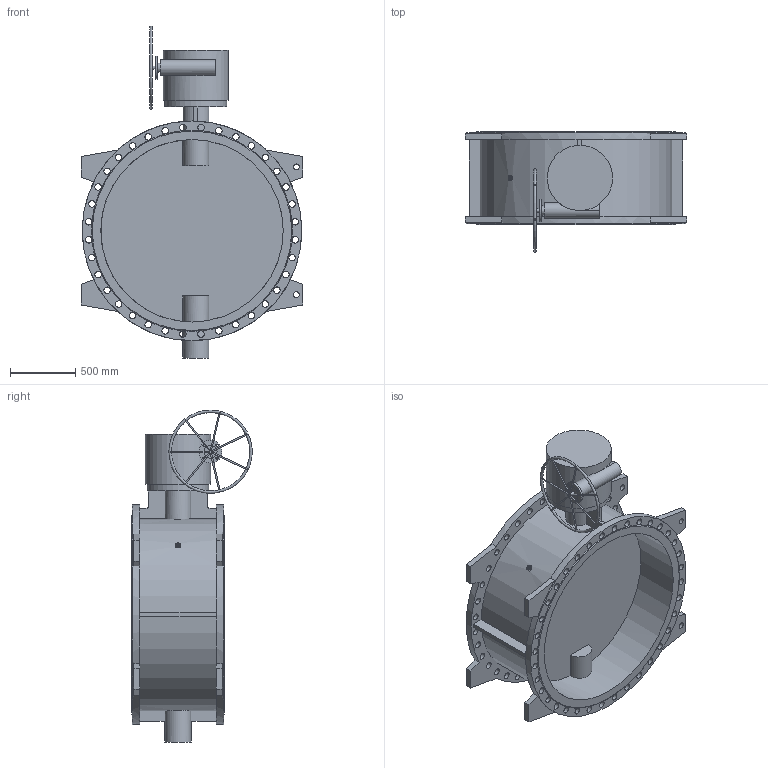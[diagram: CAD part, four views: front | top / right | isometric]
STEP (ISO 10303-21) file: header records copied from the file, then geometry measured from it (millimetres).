
FILE_DESCRIPTION(('STEP AP203'), '1');
FILE_NAME('Çàòâîð 023F.Z DN1400 PN16_ìàõ', '', ('UNSPECIFIED'), ('UNSPECIFIED'), 'ASCON STEP Converter 1.6', 'ASCON Math Kernel', '');
FILE_SCHEMA(('CONFIG_CONTROL_DESIGN'));
Length unit declared in the file: millimetre
Bounding box: 1700 x 925 x 2547 mm (x, y, z)
Volume: 453083044.2 mm3; surface area: 14587809.6 mm2
Topology: 2 solids, 2 shells, 245 faces, 755 edges, 477 vertices
Faces by surface type: cylinder 133, plane 109, cone 2, torus 1
Full cylindrical faces by diameter (mm): 10 x7, 18 x4, 24 x1, 33 x8, 39 x8, 45 x4, 50 x72, 70 x1, 100 x1, 120 x1, 175 x1, 200 x1, 475 x1, 500 x1, 1400 x2, 1685 x2
Entity records: 12185 total; most frequent: CARTESIAN_POINT 3229, DIRECTION 1509, ORIENTED_EDGE 1264, AXIS2_PLACEMENT_3D 660, EDGE_CURVE 632, EDGE_LOOP 555, VERTEX_POINT 475, CIRCLE 415
